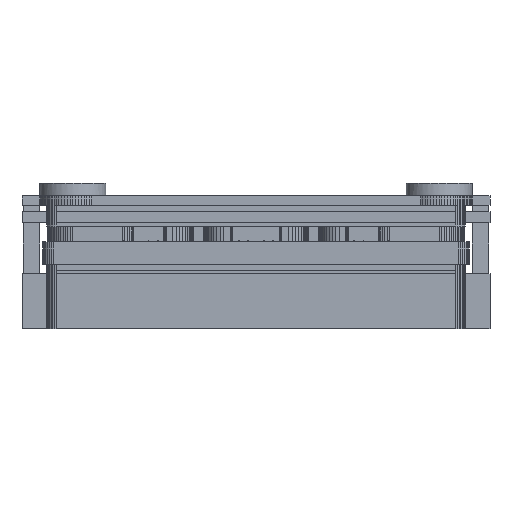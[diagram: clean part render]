
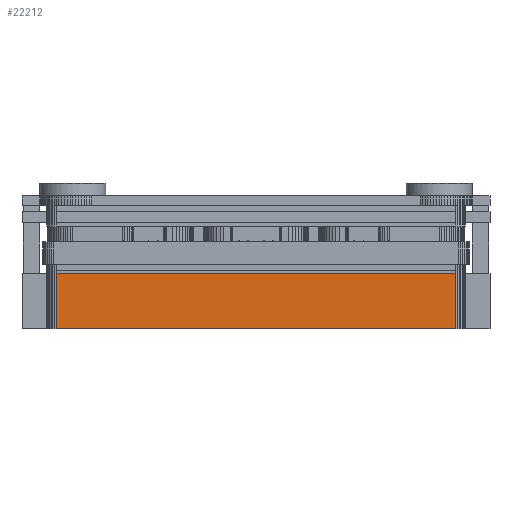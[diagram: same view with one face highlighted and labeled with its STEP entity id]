
A CAD part, left-side view. The second image highlights one B-rep face of the part: STEP entity #22212.
In plain terms, the highlighted planar face has unit normal (-1, 0, 0).
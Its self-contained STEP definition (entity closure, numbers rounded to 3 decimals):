
#278 = PLANE('',#279);
#279 = AXIS2_PLACEMENT_3D('',#280,#281,#282);
#280 = CARTESIAN_POINT('',(0.405,0.,-1.145));
#281 = DIRECTION('',(-0.,-0.,-1.));
#282 = DIRECTION('',(-1.,0.,0.));
#332 = PLANE('',#333);
#333 = AXIS2_PLACEMENT_3D('',#334,#335,#336);
#334 = CARTESIAN_POINT('',(0.405,0.,-3.145));
#335 = DIRECTION('',(-0.,-0.,-1.));
#336 = DIRECTION('',(-1.,0.,0.));
#665 = VERTEX_POINT('',#666);
#666 = CARTESIAN_POINT('',(-7.3,-7.25,-3.145));
#680 = PLANE('',#681);
#681 = AXIS2_PLACEMENT_3D('',#682,#683,#684);
#682 = CARTESIAN_POINT('',(-7.293,-7.318,-3.145));
#683 = DIRECTION('',(-0.995,-0.098,0.));
#684 = DIRECTION('',(-0.098,0.995,0.));
#692 = EDGE_CURVE('',#665,#693,#695,.T.);
#693 = VERTEX_POINT('',#694);
#694 = CARTESIAN_POINT('',(-7.3,7.25,-3.145));
#695 = SURFACE_CURVE('',#696,(#700,#707),.PCURVE_S1.);
#696 = LINE('',#697,#698);
#697 = CARTESIAN_POINT('',(-7.3,-7.25,-3.145));
#698 = VECTOR('',#699,1.);
#699 = DIRECTION('',(0.,1.,0.));
#700 = PCURVE('',#332,#701);
#701 = DEFINITIONAL_REPRESENTATION('',(#702),#706);
#702 = LINE('',#703,#704);
#703 = CARTESIAN_POINT('',(7.705,-7.25));
#704 = VECTOR('',#705,1.);
#705 = DIRECTION('',(0.,1.));
#706 = ( GEOMETRIC_REPRESENTATION_CONTEXT(2) 
PARAMETRIC_REPRESENTATION_CONTEXT() REPRESENTATION_CONTEXT('2D SPACE',''
  ) );
#707 = PCURVE('',#708,#713);
#708 = PLANE('',#709);
#709 = AXIS2_PLACEMENT_3D('',#710,#711,#712);
#710 = CARTESIAN_POINT('',(-7.3,-7.25,-3.145));
#711 = DIRECTION('',(-1.,0.,0.));
#712 = DIRECTION('',(0.,1.,0.));
#713 = DEFINITIONAL_REPRESENTATION('',(#714),#718);
#714 = LINE('',#715,#716);
#715 = CARTESIAN_POINT('',(0.,0.));
#716 = VECTOR('',#717,1.);
#717 = DIRECTION('',(1.,0.));
#718 = ( GEOMETRIC_REPRESENTATION_CONTEXT(2) 
PARAMETRIC_REPRESENTATION_CONTEXT() REPRESENTATION_CONTEXT('2D SPACE',''
  ) );
#736 = PLANE('',#737);
#737 = AXIS2_PLACEMENT_3D('',#738,#739,#740);
#738 = CARTESIAN_POINT('',(-7.3,7.25,-3.145));
#739 = DIRECTION('',(-0.995,0.098,0.));
#740 = DIRECTION('',(0.098,0.995,0.));
#11684 = VERTEX_POINT('',#11685);
#11685 = CARTESIAN_POINT('',(-7.3,-7.25,-1.145));
#11706 = EDGE_CURVE('',#11684,#11707,#11709,.T.);
#11707 = VERTEX_POINT('',#11708);
#11708 = CARTESIAN_POINT('',(-7.3,7.25,-1.145));
#11709 = SURFACE_CURVE('',#11710,(#11714,#11721),.PCURVE_S1.);
#11710 = LINE('',#11711,#11712);
#11711 = CARTESIAN_POINT('',(-7.3,-7.25,-1.145));
#11712 = VECTOR('',#11713,1.);
#11713 = DIRECTION('',(0.,1.,0.));
#11714 = PCURVE('',#278,#11715);
#11715 = DEFINITIONAL_REPRESENTATION('',(#11716),#11720);
#11716 = LINE('',#11717,#11718);
#11717 = CARTESIAN_POINT('',(7.705,-7.25));
#11718 = VECTOR('',#11719,1.);
#11719 = DIRECTION('',(0.,1.));
#11720 = ( GEOMETRIC_REPRESENTATION_CONTEXT(2) 
PARAMETRIC_REPRESENTATION_CONTEXT() REPRESENTATION_CONTEXT('2D SPACE',''
  ) );
#11721 = PCURVE('',#708,#11722);
#11722 = DEFINITIONAL_REPRESENTATION('',(#11723),#11727);
#11723 = LINE('',#11724,#11725);
#11724 = CARTESIAN_POINT('',(0.,-2.));
#11725 = VECTOR('',#11726,1.);
#11726 = DIRECTION('',(1.,0.));
#11727 = ( GEOMETRIC_REPRESENTATION_CONTEXT(2) 
PARAMETRIC_REPRESENTATION_CONTEXT() REPRESENTATION_CONTEXT('2D SPACE',''
  ) );
#22191 = EDGE_CURVE('',#665,#11684,#22192,.T.);
#22192 = SURFACE_CURVE('',#22193,(#22197,#22204),.PCURVE_S1.);
#22193 = LINE('',#22194,#22195);
#22194 = CARTESIAN_POINT('',(-7.3,-7.25,-3.145));
#22195 = VECTOR('',#22196,1.);
#22196 = DIRECTION('',(0.,0.,1.));
#22197 = PCURVE('',#680,#22198);
#22198 = DEFINITIONAL_REPRESENTATION('',(#22199),#22203);
#22199 = LINE('',#22200,#22201);
#22200 = CARTESIAN_POINT('',(0.069,0.));
#22201 = VECTOR('',#22202,1.);
#22202 = DIRECTION('',(0.,-1.));
#22203 = ( GEOMETRIC_REPRESENTATION_CONTEXT(2) 
PARAMETRIC_REPRESENTATION_CONTEXT() REPRESENTATION_CONTEXT('2D SPACE',''
  ) );
#22204 = PCURVE('',#708,#22205);
#22205 = DEFINITIONAL_REPRESENTATION('',(#22206),#22210);
#22206 = LINE('',#22207,#22208);
#22207 = CARTESIAN_POINT('',(0.,0.));
#22208 = VECTOR('',#22209,1.);
#22209 = DIRECTION('',(0.,-1.));
#22210 = ( GEOMETRIC_REPRESENTATION_CONTEXT(2) 
PARAMETRIC_REPRESENTATION_CONTEXT() REPRESENTATION_CONTEXT('2D SPACE',''
  ) );
#22212 = ADVANCED_FACE('',(#22213),#708,.T.);
#22213 = FACE_BOUND('',#22214,.T.);
#22214 = EDGE_LOOP('',(#22215,#22216,#22217,#22238));
#22215 = ORIENTED_EDGE('',*,*,#22191,.T.);
#22216 = ORIENTED_EDGE('',*,*,#11706,.T.);
#22217 = ORIENTED_EDGE('',*,*,#22218,.F.);
#22218 = EDGE_CURVE('',#693,#11707,#22219,.T.);
#22219 = SURFACE_CURVE('',#22220,(#22224,#22231),.PCURVE_S1.);
#22220 = LINE('',#22221,#22222);
#22221 = CARTESIAN_POINT('',(-7.3,7.25,-3.145));
#22222 = VECTOR('',#22223,1.);
#22223 = DIRECTION('',(0.,0.,1.));
#22224 = PCURVE('',#708,#22225);
#22225 = DEFINITIONAL_REPRESENTATION('',(#22226),#22230);
#22226 = LINE('',#22227,#22228);
#22227 = CARTESIAN_POINT('',(14.5,0.));
#22228 = VECTOR('',#22229,1.);
#22229 = DIRECTION('',(0.,-1.));
#22230 = ( GEOMETRIC_REPRESENTATION_CONTEXT(2) 
PARAMETRIC_REPRESENTATION_CONTEXT() REPRESENTATION_CONTEXT('2D SPACE',''
  ) );
#22231 = PCURVE('',#736,#22232);
#22232 = DEFINITIONAL_REPRESENTATION('',(#22233),#22237);
#22233 = LINE('',#22234,#22235);
#22234 = CARTESIAN_POINT('',(0.,0.));
#22235 = VECTOR('',#22236,1.);
#22236 = DIRECTION('',(0.,-1.));
#22237 = ( GEOMETRIC_REPRESENTATION_CONTEXT(2) 
PARAMETRIC_REPRESENTATION_CONTEXT() REPRESENTATION_CONTEXT('2D SPACE',''
  ) );
#22238 = ORIENTED_EDGE('',*,*,#692,.F.);
